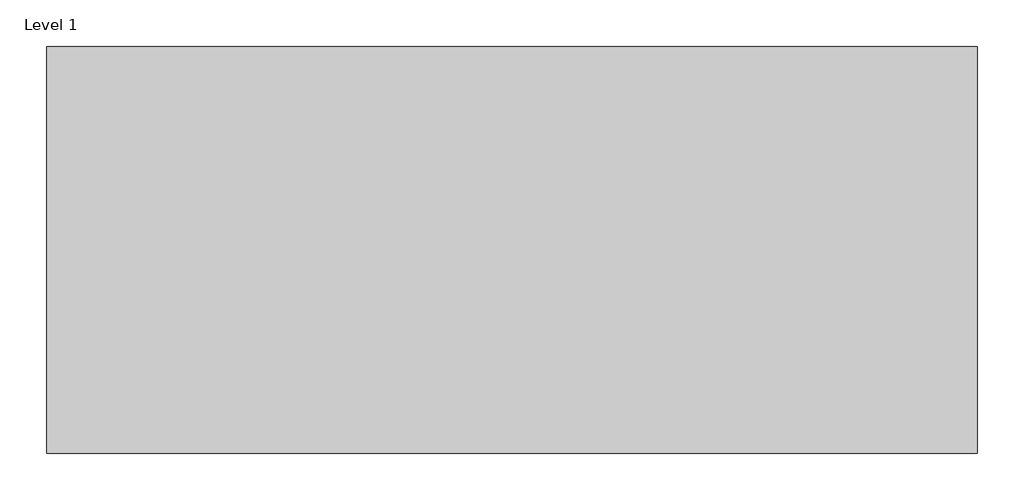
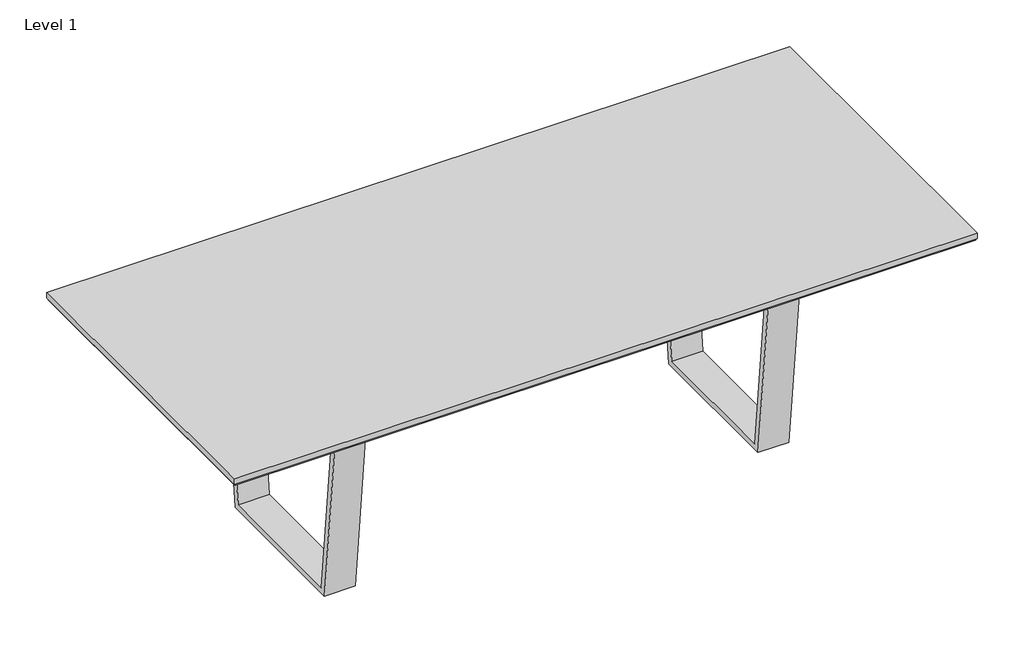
# One storey: 3 proxies.
"""IFC4 building model written with IfcOpenShell, lengths in millimetres."""

from ifc_helpers import new_model, si_unit, origin, place, context, project, spatial, transform, mapped, element, save
from components import generic_models_531129e8, generic_models_3f900403

model = new_model("IFC4")

# Units and contexts
model_context = context("Model", 3, world=origin())
ifc_project = project(units=[si_unit("LENGTHUNIT", "METRE", prefix="MILLI")], contexts=[model_context])

# Site, building, storey
site = spatial("IfcSite", under=ifc_project)
building = spatial("IfcBuilding", under=site)
storey = spatial("IfcBuildingStorey", under=building, Name="Level 1", Elevation=0.0)

# Proxies
placement = place(None, origin())
generic_models_shape = generic_models_531129e8(model_context)
element("IfcBuildingElementProxy", 1, Name="IMPRESS^TABLE 1_ANGLE LOOP BASE-KEEL PLATES", ObjectType="IMPRESS^TABLE 1_ANGLE LOOP BASE-KEEL PLATES", at=placement, inside=storey, context=model_context, shape_type="MappedRepresentation", body=[
    mapped(generic_models_shape, transform((1981.2, -279.4, -679.45), x_axis=(0.0, -1.0, 0.0), y_axis=(0.0, 0.0, 1.0), z_axis=(-1.0, 0.0, 0.0))),
])
element("IfcBuildingElementProxy", 2, Name="IMPRESS^TABLE 1_ANGLE LOOP BASE-KEEL PLATES", ObjectType="IMPRESS^TABLE 1_ANGLE LOOP BASE-KEEL PLATES", at=placement, inside=storey, context=model_context, shape_type="MappedRepresentation", body=[
    mapped(generic_models_shape, transform((457.2, -787.4, -679.45), x_axis=(0.0, 1.0, 0.0), y_axis=(0.0, 0.0, 1.0), z_axis=(1.0, 0.0, 0.0))),
])
generic_models_2_shape = generic_models_3f900403(model_context)
element("IfcBuildingElementProxy", 3, Name="IMPRESS^TABLE 1_42x96 RECT-PARTS SOLID", ObjectType="IMPRESS^TABLE 1_42x96 RECT-PARTS SOLID", at=placement, inside=storey, context=model_context, shape_type="MappedRepresentation", body=[
    mapped(generic_models_2_shape, transform((2435.225, -1063.625, 0.0), x_axis=(1.0, 0.0, 0.0), y_axis=(0.0, 0.0, 1.0), z_axis=(0.0, -1.0, 0.0))),
])

save(model, "model.ifc")
